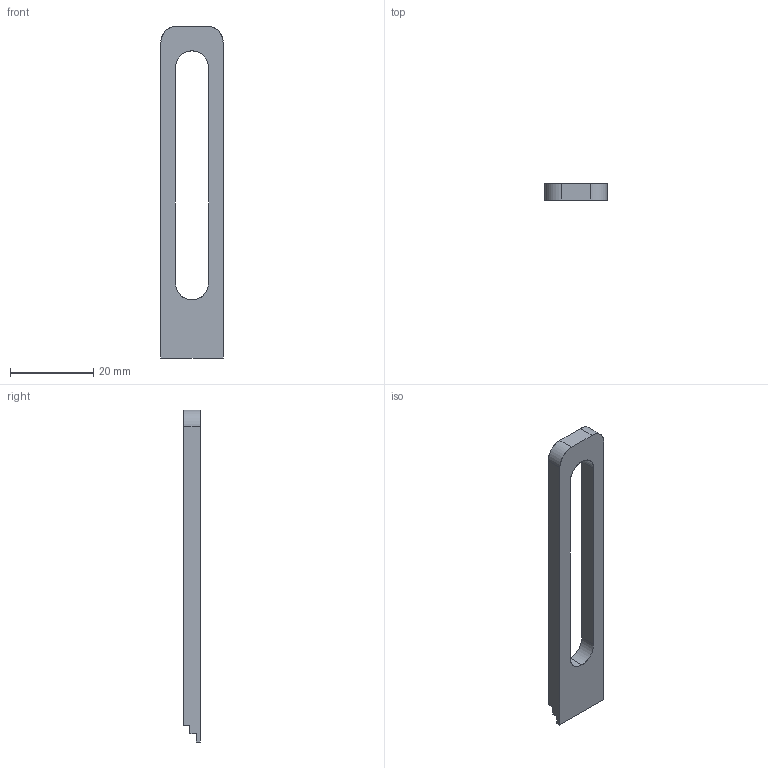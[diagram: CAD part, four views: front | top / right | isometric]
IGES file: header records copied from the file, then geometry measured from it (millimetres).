
Start section: SolidWorks IGES file using analytic representation for surfaces
Global section: file name: D:\frez\razn\krep.IGS; native system: SolidWorks 2012; preprocessor: SolidWorks 2012; author: Admin; date: 120224.181651; units: millimetre
Bounding box: 15 x 4 x 80 mm (x, y, z)
Surface area: 2698.5 mm2 (no closed solid volume)
Topology: 0 solids, 0 shells, 18 faces, 180 edges, 180 vertices
Faces by surface type: bspline 12, revolution 6
